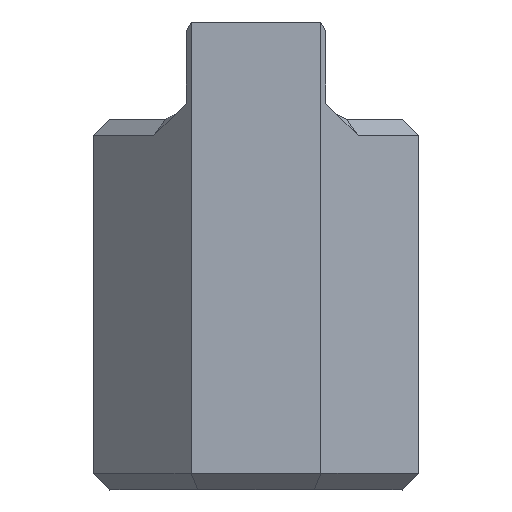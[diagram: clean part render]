
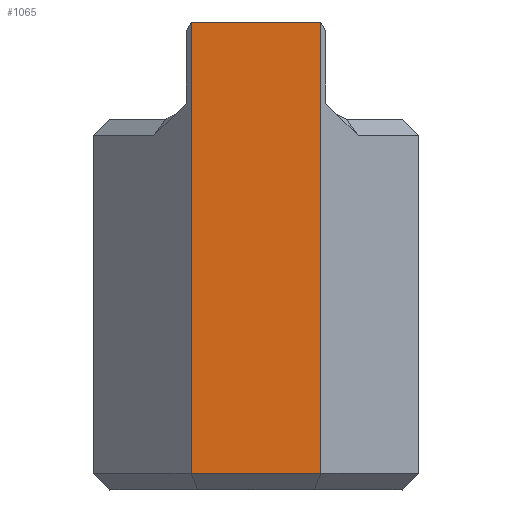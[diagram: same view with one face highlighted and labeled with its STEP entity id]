
A CAD part, top view. The second image highlights one B-rep face of the part: STEP entity #1065.
In plain terms, the highlighted planar face has unit normal (0, 0, 1).
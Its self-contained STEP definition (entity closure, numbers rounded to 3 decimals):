
#76 = EDGE_CURVE ( 'NONE', #1098, #245, #651, .T. ) ;
#95 = ORIENTED_EDGE ( 'NONE', *, *, #76, .F. ) ;
#135 = DIRECTION ( 'NONE',  ( 1., 0., 0. ) ) ;
#175 = CARTESIAN_POINT ( 'NONE',  ( -5., 6.2, 8.5 ) ) ;
#191 = ORIENTED_EDGE ( 'NONE', *, *, #374, .T. ) ;
#213 = LINE ( 'NONE', #480, #427 ) ;
#221 = CARTESIAN_POINT ( 'NONE',  ( 2., 6.2, 8.5 ) ) ;
#229 = CARTESIAN_POINT ( 'NONE',  ( -2., -7.7, 8.5 ) ) ;
#235 = CARTESIAN_POINT ( 'NONE',  ( 2., -7.7, 8.5 ) ) ;
#237 = EDGE_CURVE ( 'NONE', #860, #245, #1074, .T. ) ;
#245 = VERTEX_POINT ( 'NONE', #221 ) ;
#331 = LINE ( 'NONE', #235, #1201 ) ;
#374 = EDGE_CURVE ( 'NONE', #393, #860, #331, .T. ) ;
#393 = VERTEX_POINT ( 'NONE', #229 ) ;
#423 = CARTESIAN_POINT ( 'NONE',  ( 0., 0., 8.5 ) ) ;
#427 = VECTOR ( 'NONE', #690, 1000. ) ;
#480 = CARTESIAN_POINT ( 'NONE',  ( -2., -8.2, 8.5 ) ) ;
#495 = CARTESIAN_POINT ( 'NONE',  ( 2., 8.2, 8.5 ) ) ;
#549 = DIRECTION ( 'NONE',  ( 1., 0., 0. ) ) ;
#606 = ORIENTED_EDGE ( 'NONE', *, *, #237, .T. ) ;
#607 = FACE_OUTER_BOUND ( 'NONE', #691, .T. ) ;
#631 = AXIS2_PLACEMENT_3D ( 'NONE', #423, #984, #135 ) ;
#644 = VECTOR ( 'NONE', #549, 1000. ) ;
#651 = LINE ( 'NONE', #175, #644 ) ;
#690 = DIRECTION ( 'NONE',  ( 0., -1., 0. ) ) ;
#691 = EDGE_LOOP ( 'NONE', ( #1168, #191, #606, #95 ) ) ;
#790 = PLANE ( 'NONE',  #631 ) ;
#860 = VERTEX_POINT ( 'NONE', #1132 ) ;
#920 = VECTOR ( 'NONE', #946, 1000. ) ;
#946 = DIRECTION ( 'NONE',  ( 0., 1., 0. ) ) ;
#966 = EDGE_CURVE ( 'NONE', #1098, #393, #213, .T. ) ;
#984 = DIRECTION ( 'NONE',  ( 0., 0., 1. ) ) ;
#1005 = CARTESIAN_POINT ( 'NONE',  ( -2., 6.2, 8.5 ) ) ;
#1065 = ADVANCED_FACE ( 'NONE', ( #607 ), #790, .T. ) ;
#1074 = LINE ( 'NONE', #495, #920 ) ;
#1098 = VERTEX_POINT ( 'NONE', #1005 ) ;
#1132 = CARTESIAN_POINT ( 'NONE',  ( 2., -7.7, 8.5 ) ) ;
#1168 = ORIENTED_EDGE ( 'NONE', *, *, #966, .T. ) ;
#1189 = DIRECTION ( 'NONE',  ( 1., 0., 0. ) ) ;
#1201 = VECTOR ( 'NONE', #1189, 1000. ) ;
